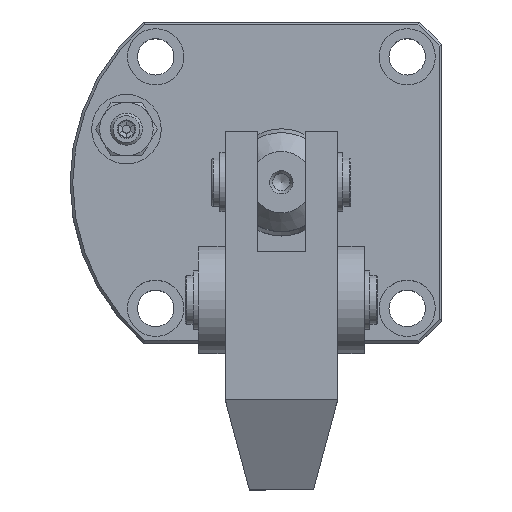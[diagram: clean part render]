
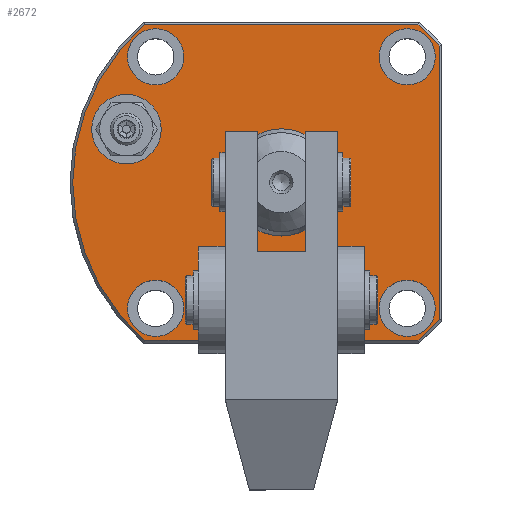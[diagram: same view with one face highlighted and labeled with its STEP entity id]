
A CAD part, top view. The second image highlights one B-rep face of the part: STEP entity #2672.
In plain terms, the highlighted planar face has unit normal (0, 0, 1).
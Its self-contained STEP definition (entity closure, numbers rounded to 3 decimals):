
#224=CIRCLE('',#2964,39.);
#225=CIRCLE('',#2967,39.);
#226=CIRCLE('',#2970,39.);
#227=CIRCLE('',#2973,10.);
#228=CIRCLE('',#2975,5.25);
#229=CIRCLE('',#2977,5.25);
#230=CIRCLE('',#2979,5.25);
#231=CIRCLE('',#2981,5.25);
#232=CIRCLE('',#2983,6.5);
#347=LINE('',#4597,#472);
#348=LINE('',#4606,#473);
#349=LINE('',#4620,#474);
#351=LINE('',#4624,#476);
#352=LINE('',#4644,#477);
#353=LINE('',#4647,#478);
#354=LINE('',#4648,#479);
#472=VECTOR('',#3432,1000.);
#473=VECTOR('',#3439,1000.);
#474=VECTOR('',#3446,1000.);
#476=VECTOR('',#3448,1000.);
#477=VECTOR('',#3475,1000.);
#478=VECTOR('',#3476,1000.);
#479=VECTOR('',#3477,1000.);
#864=ORIENTED_EDGE('',*,*,#1404,.T.);
#865=ORIENTED_EDGE('',*,*,#1403,.F.);
#866=ORIENTED_EDGE('',*,*,#1402,.F.);
#867=ORIENTED_EDGE('',*,*,#1401,.F.);
#868=ORIENTED_EDGE('',*,*,#1400,.F.);
#869=ORIENTED_EDGE('',*,*,#1399,.T.);
#870=ORIENTED_EDGE('',*,*,#1405,.T.);
#871=ORIENTED_EDGE('',*,*,#1406,.T.);
#872=ORIENTED_EDGE('',*,*,#1396,.T.);
#873=ORIENTED_EDGE('',*,*,#1394,.T.);
#874=ORIENTED_EDGE('',*,*,#1392,.T.);
#875=ORIENTED_EDGE('',*,*,#1391,.T.);
#876=ORIENTED_EDGE('',*,*,#1389,.T.);
#877=ORIENTED_EDGE('',*,*,#1387,.T.);
#878=ORIENTED_EDGE('',*,*,#1398,.T.);
#879=ORIENTED_EDGE('',*,*,#1407,.F.);
#1387=EDGE_CURVE('',#1686,#1687,#224,.T.);
#1389=EDGE_CURVE('',#1688,#1686,#347,.T.);
#1391=EDGE_CURVE('',#1689,#1688,#225,.T.);
#1392=EDGE_CURVE('',#1690,#1689,#348,.T.);
#1394=EDGE_CURVE('',#1691,#1690,#226,.T.);
#1396=EDGE_CURVE('',#1692,#1691,#349,.T.);
#1398=EDGE_CURVE('',#1687,#1693,#351,.T.);
#1399=EDGE_CURVE('',#1694,#1694,#227,.T.);
#1400=EDGE_CURVE('',#1695,#1695,#228,.T.);
#1401=EDGE_CURVE('',#1696,#1696,#229,.T.);
#1402=EDGE_CURVE('',#1697,#1697,#230,.T.);
#1403=EDGE_CURVE('',#1698,#1698,#231,.T.);
#1404=EDGE_CURVE('',#1699,#1699,#232,.F.);
#1405=EDGE_CURVE('',#1700,#1701,#352,.T.);
#1406=EDGE_CURVE('',#1701,#1692,#353,.T.);
#1407=EDGE_CURVE('',#1700,#1693,#354,.T.);
#1686=VERTEX_POINT('',#4584);
#1687=VERTEX_POINT('',#4589);
#1688=VERTEX_POINT('',#4596);
#1689=VERTEX_POINT('',#4603);
#1690=VERTEX_POINT('',#4607);
#1691=VERTEX_POINT('',#4614);
#1692=VERTEX_POINT('',#4621);
#1693=VERTEX_POINT('',#4623);
#1694=VERTEX_POINT('',#4627);
#1695=VERTEX_POINT('',#4630);
#1696=VERTEX_POINT('',#4633);
#1697=VERTEX_POINT('',#4636);
#1698=VERTEX_POINT('',#4639);
#1699=VERTEX_POINT('',#4642);
#1700=VERTEX_POINT('',#4645);
#1701=VERTEX_POINT('',#4646);
#2029=EDGE_LOOP('',(#864));
#2030=EDGE_LOOP('',(#865));
#2031=EDGE_LOOP('',(#866));
#2032=EDGE_LOOP('',(#867));
#2033=EDGE_LOOP('',(#868));
#2034=EDGE_LOOP('',(#869));
#2035=EDGE_LOOP('',(#870,#871,#872,#873,#874,#875,#876,#877,#878,#879));
#2326=FACE_BOUND('',#2029,.T.);
#2327=FACE_BOUND('',#2030,.T.);
#2328=FACE_BOUND('',#2031,.T.);
#2329=FACE_BOUND('',#2032,.T.);
#2330=FACE_BOUND('',#2033,.T.);
#2331=FACE_BOUND('',#2034,.T.);
#2332=FACE_BOUND('',#2035,.T.);
#2537=PLANE('',#2984);
#2672=ADVANCED_FACE('',(#2326,#2327,#2328,#2329,#2330,#2331,#2332),#2537,
 .T.);
#2964=AXIS2_PLACEMENT_3D('',#4590,#3428,#3429);
#2967=AXIS2_PLACEMENT_3D('',#4604,#3435,#3436);
#2970=AXIS2_PLACEMENT_3D('',#4613,#3442,#3443);
#2973=AXIS2_PLACEMENT_3D('',#4626,#3451,#3452);
#2975=AXIS2_PLACEMENT_3D('',#4629,#3455,#3456);
#2977=AXIS2_PLACEMENT_3D('',#4632,#3459,#3460);
#2979=AXIS2_PLACEMENT_3D('',#4635,#3463,#3464);
#2981=AXIS2_PLACEMENT_3D('',#4638,#3467,#3468);
#2983=AXIS2_PLACEMENT_3D('',#4641,#3471,#3472);
#2984=AXIS2_PLACEMENT_3D('',#4643,#3473,#3474);
#3428=DIRECTION('',(0.,0.,1.));
#3429=DIRECTION('',(0.,-1.,0.));
#3432=DIRECTION('',(-1.,0.,0.));
#3435=DIRECTION('',(0.,0.,1.));
#3436=DIRECTION('',(0.,-1.,0.));
#3439=DIRECTION('',(0.,1.,0.));
#3442=DIRECTION('',(0.,0.,1.));
#3443=DIRECTION('',(0.,-1.,0.));
#3446=DIRECTION('',(1.,0.,0.));
#3448=DIRECTION('',(1.,0.,0.));
#3451=DIRECTION('',(0.,0.,-1.));
#3452=DIRECTION('',(0.,-1.,0.));
#3455=DIRECTION('',(0.,0.,1.));
#3456=DIRECTION('',(1.,0.,0.));
#3459=DIRECTION('',(0.,0.,1.));
#3460=DIRECTION('',(1.,0.,0.));
#3463=DIRECTION('',(0.,0.,1.));
#3464=DIRECTION('',(1.,0.,0.));
#3467=DIRECTION('',(0.,0.,1.));
#3468=DIRECTION('',(1.,0.,0.));
#3471=DIRECTION('',(0.,0.,1.));
#3472=DIRECTION('',(0.,-1.,0.));
#3473=DIRECTION('',(0.,0.,1.));
#3474=DIRECTION('',(0.,-1.,0.));
#3475=DIRECTION('',(1.,0.,0.));
#3476=DIRECTION('',(0.,-1.,0.));
#3477=DIRECTION('',(0.,-1.,0.));
#4584=CARTESIAN_POINT('',(-34.51,60.,19.5));
#4589=CARTESIAN_POINT('',(-34.51,1.,19.5));
#4590=CARTESIAN_POINT('',(-9.,30.5,19.5));
#4596=CARTESIAN_POINT('',(16.51,60.,19.5));
#4597=CARTESIAN_POINT('',(-9.,60.,19.5));
#4603=CARTESIAN_POINT('',(20.5,56.01,19.5));
#4604=CARTESIAN_POINT('',(-9.,30.5,19.5));
#4606=CARTESIAN_POINT('',(20.5,30.5,19.5));
#4607=CARTESIAN_POINT('',(20.5,4.99,19.5));
#4613=CARTESIAN_POINT('',(-9.,30.5,19.5));
#4614=CARTESIAN_POINT('',(16.51,1.,19.5));
#4620=CARTESIAN_POINT('',(-9.,1.,19.5));
#4621=CARTESIAN_POINT('',(1.5,1.,19.5));
#4623=CARTESIAN_POINT('',(-19.5,1.,19.5));
#4624=CARTESIAN_POINT('',(-9.,1.,19.5));
#4626=CARTESIAN_POINT('',(-9.,30.5,19.5));
#4627=CARTESIAN_POINT('',(-9.,20.5,19.5));
#4629=CARTESIAN_POINT('',(14.5,54.,19.5));
#4630=CARTESIAN_POINT('',(19.75,54.,19.5));
#4632=CARTESIAN_POINT('',(-32.5,54.,19.5));
#4633=CARTESIAN_POINT('',(-27.25,54.,19.5));
#4635=CARTESIAN_POINT('',(-32.5,7.,19.5));
#4636=CARTESIAN_POINT('',(-27.25,7.,19.5));
#4638=CARTESIAN_POINT('',(14.5,7.,19.5));
#4639=CARTESIAN_POINT('',(19.75,7.,19.5));
#4641=CARTESIAN_POINT('',(-37.96,40.47,19.5));
#4642=CARTESIAN_POINT('',(-37.96,33.97,19.5));
#4643=CARTESIAN_POINT('',(-9.,30.5,19.5));
#4644=CARTESIAN_POINT('',(-9.,17.5,19.5));
#4645=CARTESIAN_POINT('',(-19.5,17.5,19.5));
#4646=CARTESIAN_POINT('',(1.5,17.5,19.5));
#4647=CARTESIAN_POINT('',(1.5,16.5,19.5));
#4648=CARTESIAN_POINT('',(-19.5,16.5,19.5));
